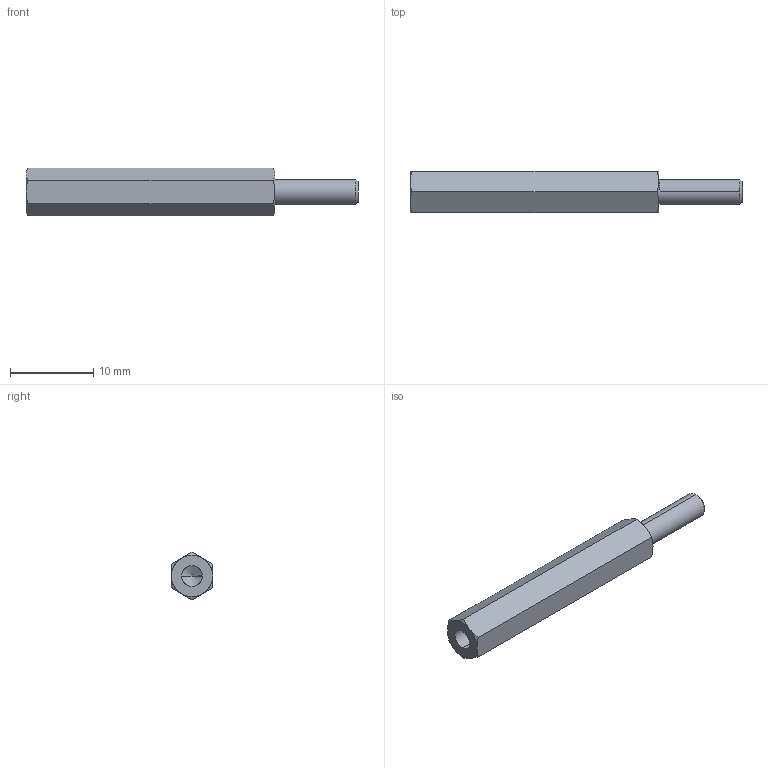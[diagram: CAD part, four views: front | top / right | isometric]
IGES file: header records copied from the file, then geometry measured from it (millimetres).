
Start section: SolidWorks IGES file using analytic representation for surfaces
Global section: file name: C:\Users\render1\Desktop\P0185_IGES\P0185.03-30.igs; native system: SolidWorks 2009; preprocessor: SolidWorks 2009; author: render1; date: 130627.111809; units: millimetre
Bounding box: 40 x 5 x 5.77 mm (x, y, z)
Surface area: 733 mm2 (no closed solid volume)
Topology: 0 solids, 0 shells, 29 faces, 324 edges, 322 vertices
Faces by surface type: revolution 20, bspline 9
